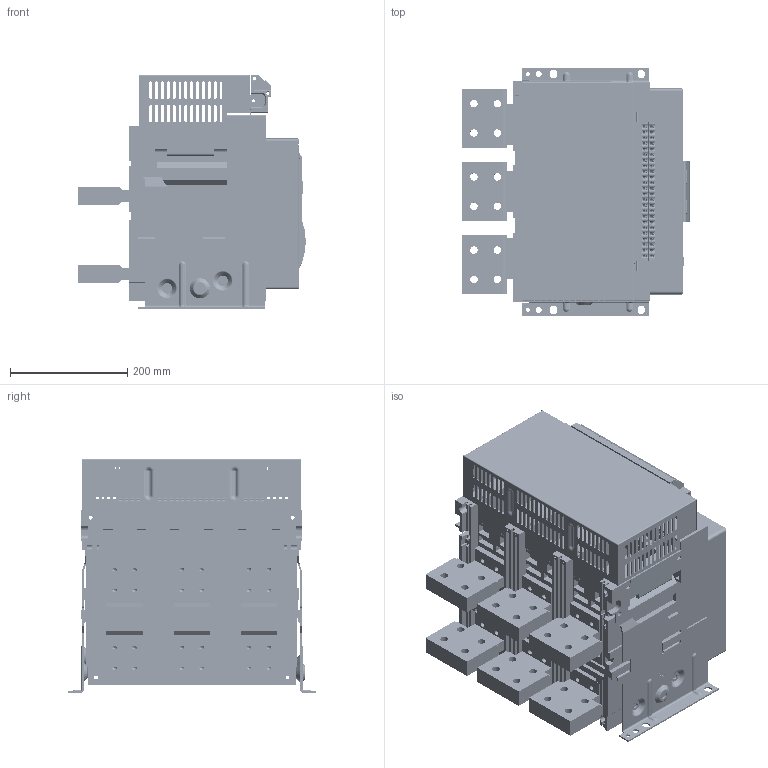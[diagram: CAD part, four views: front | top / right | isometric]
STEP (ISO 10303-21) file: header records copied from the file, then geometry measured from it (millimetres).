
FILE_DESCRIPTION (( 'STEP AP203' ), '1' );
FILE_NAME ('4000 F 3P PD.24.03.01.STEP', '2024-06-17T14:04:23', ( '' ), ( '' ), 'SwSTEP 2.0', 'SolidWorks 2022', '' );
FILE_SCHEMA (( 'CONFIG_CONTROL_DESIGN' ));
Length unit declared in the file: millimetre
Products named in the file (13): 4000 F 3P PD.24.03.01; A8 左侧板.stp; 48 固定式端子.stp; A8 罩壳.stp; A8 右侧板.stp; 4000 F 3P.stp; 静接触板_MODEL.stp; 联接母排B.stp; 4000-3P底板_id14_x_t.stp; 动母线.stp; 联接 母排ACprt.stp; 4000 外壳.stp; 4000-3P基座.stp
Assembly tree (20 placements, depth 3):
  4000 F 3P PD.24.03.01
    4000 F 3P.stp
      4000-3P基座.stp
      4000-3P底板_id14_x_t.stp
      动母线.stp  x3
      静接触板_MODEL.stp  x3
      48 固定式端子.stp
      4000 外壳.stp
      A8 左侧板.stp
      A8 右侧板.stp
      A8 罩壳.stp
      联接母排B.stp  x2
      联接 母排ACprt.stp  x4
Bounding box: 388.78 x 425 x 399.35 mm (x, y, z)
Volume: 16276972.7 mm3; surface area: 2711425.5 mm2
Topology: 78 solids, 81 shells, 11975 faces, 34484 edges, 22601 vertices
Faces by surface type: plane 8193, cylinder 2917, torus 415, cone 309, bspline 100, sphere 41
Entity records: 391518 total; most frequent: CARTESIAN_POINT 81266, ORIENTED_EDGE 66960, DIRECTION 61597, EDGE_CURVE 33480, VECTOR 25369, LINE 25369, VERTEX_POINT 22036, AXIS2_PLACEMENT_3D 18114
